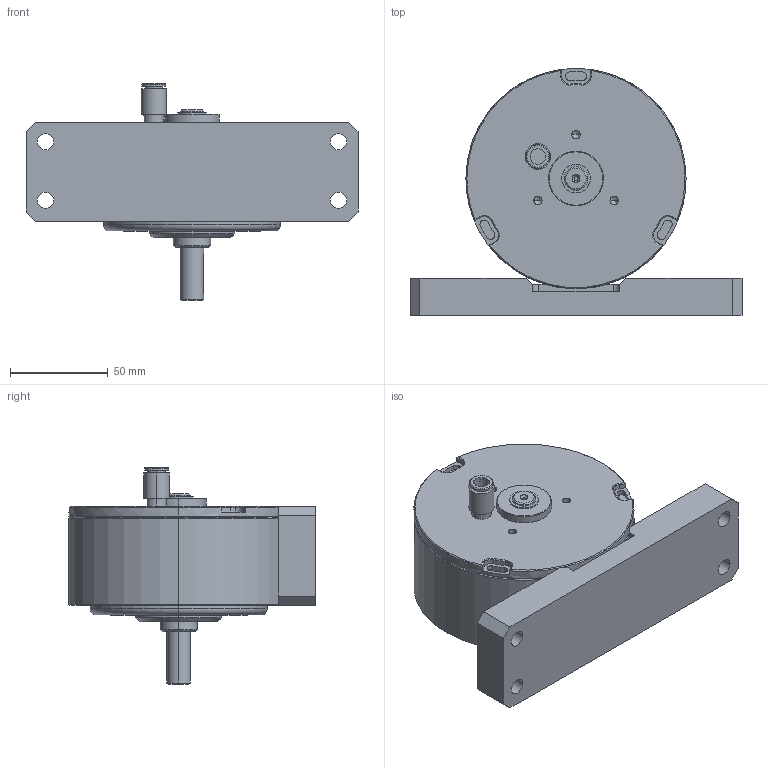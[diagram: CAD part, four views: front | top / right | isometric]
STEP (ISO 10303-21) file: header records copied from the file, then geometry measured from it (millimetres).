
FILE_DESCRIPTION (( 'STEP AP214' ), '1' );
FILE_NAME ('AHB-250M-2.STEP', '2022-04-06T06:38:18', ( '' ), ( '' ), 'SwSTEP 2.0', 'SolidWorks 2021', '' );
FILE_SCHEMA (( 'AUTOMOTIVE_DESIGN' ));
Length unit declared in the file: millimetre
Products named in the file (1): AHB-250M-2
Bounding box: 169.93 x 126.35 x 111.06 mm (x, y, z)
Volume: 690382.7 mm3; surface area: 79410.5 mm2
Topology: 1 solids, 1 shells, 338 faces, 816 edges, 492 vertices
Faces by surface type: cylinder 154, cone 118, plane 60, torus 6
Entity records: 10091 total; most frequent: CARTESIAN_POINT 2027, DIRECTION 1835, ORIENTED_EDGE 1604, EDGE_CURVE 802, AXIS2_PLACEMENT_3D 764, VERTEX_POINT 492, CIRCLE 425, EDGE_LOOP 372
